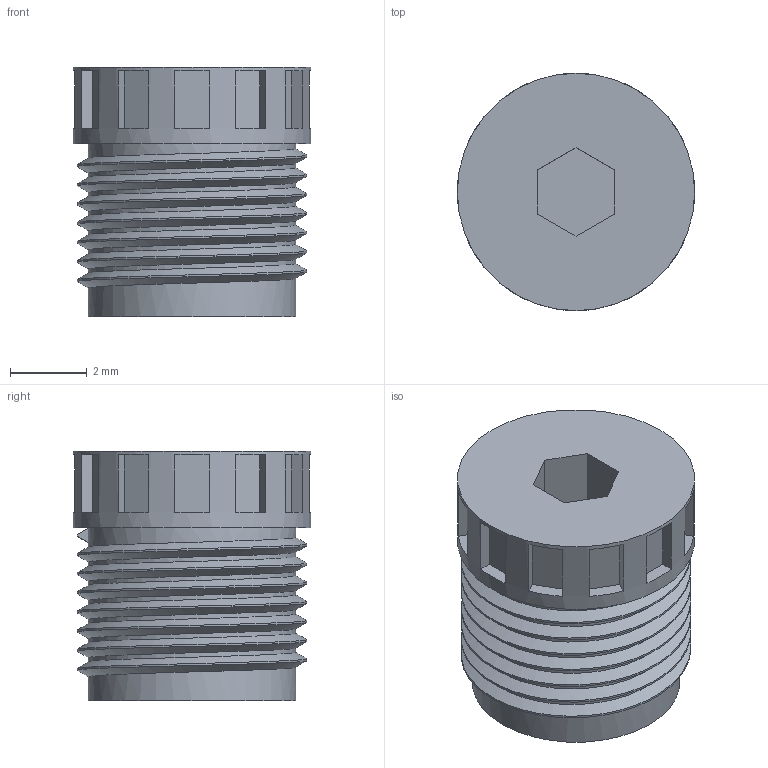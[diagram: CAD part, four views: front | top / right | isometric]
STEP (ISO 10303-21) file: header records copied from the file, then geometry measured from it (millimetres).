
FILE_DESCRIPTION(('Open CASCADE Model'),'2;1');
FILE_NAME('Open CASCADE Shape Model','2026-09-24T19:52:59',('Author'),( 'Open CASCADE'),'Open CASCADE STEP processor 7.8','Open CASCADE 7.8' ,'Unknown');
FILE_SCHEMA(('AUTOMOTIVE_DESIGN { 1 0 10303 214 1 1 1 1 }'));
Length unit declared in the file: millimetre
Products named in the file (1): Open CASCADE STEP translator 7.8 55
Bounding box: 6.2 x 6.2 x 6.53 mm (x, y, z)
Volume: 138.5 mm3; surface area: 276.4 mm2
Topology: 1 solids, 1 shells, 86 faces, 206 edges, 136 vertices
Faces by surface type: plane 73, cylinder 10, bspline 3
Full cylindrical faces by diameter (mm): 4.12 x1, 5.42 x8, 6.2 x1
Entity records: 8164 total; most frequent: CARTESIAN_POINT 3968, DIRECTION 762, LINE 498, VECTOR 498, ORIENTED_EDGE 412, PCURVE 412, DEFINITIONAL_REPRESENTATION 412, EDGE_CURVE 206
